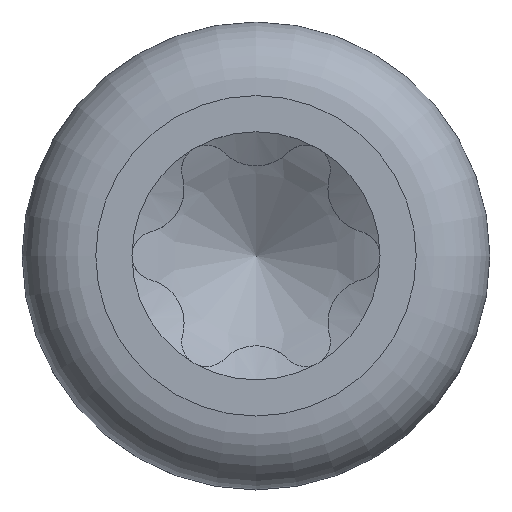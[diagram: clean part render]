
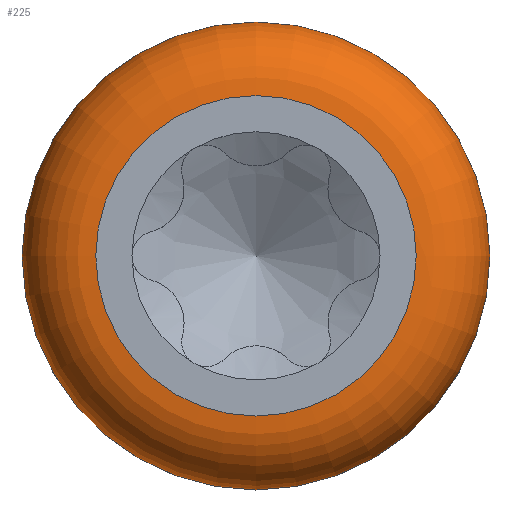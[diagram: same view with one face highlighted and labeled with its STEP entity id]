
A CAD part, top view. The second image highlights one B-rep face of the part: STEP entity #225.
In plain terms, the highlighted toroidal (fillet/blend) face has major radius 1.13 mm and minor radius 0.52 mm.
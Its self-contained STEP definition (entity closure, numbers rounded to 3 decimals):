
#225=ADVANCED_FACE('',(#379,#380),#280,.T.);
#280=TOROIDAL_SURFACE('',#1024,1.13,0.52);
#379=FACE_BOUND('',#403,.T.);
#380=FACE_BOUND('',#404,.T.);
#403=EDGE_LOOP('',(#507));
#404=EDGE_LOOP('',(#508));
#507=ORIENTED_EDGE('',*,*,#881,.F.);
#508=ORIENTED_EDGE('',*,*,#880,.T.);
#783=VERTEX_POINT('',#2016);
#784=VERTEX_POINT('',#2019);
#880=EDGE_CURVE('',#783,#783,#994,.T.);
#881=EDGE_CURVE('',#784,#784,#995,.T.);
#994=CIRCLE('',#1021,1.65);
#995=CIRCLE('',#1023,1.13);
#1021=AXIS2_PLACEMENT_3D('',#2015,#1094,#1095);
#1023=AXIS2_PLACEMENT_3D('',#2018,#1098,#1099);
#1024=AXIS2_PLACEMENT_3D('',#2020,#1100,#1101);
#1094=DIRECTION('',(0.,0.,1.));
#1095=DIRECTION('',(1.,0.,0.));
#1098=DIRECTION('',(0.,0.,1.));
#1099=DIRECTION('',(1.,0.,0.));
#1100=DIRECTION('',(0.,0.,1.));
#1101=DIRECTION('',(1.,0.,0.));
#2015=CARTESIAN_POINT('',(0.,0.,0.78));
#2016=CARTESIAN_POINT('',(1.65,0.,0.78));
#2018=CARTESIAN_POINT('',(0.,0.,1.3));
#2019=CARTESIAN_POINT('',(1.13,0.,1.3));
#2020=CARTESIAN_POINT('',(0.,0.,0.78));
